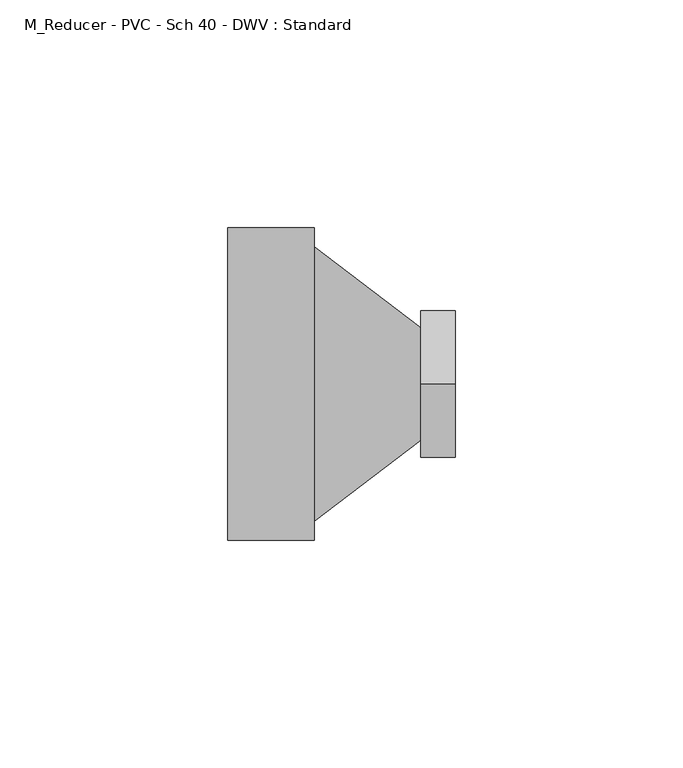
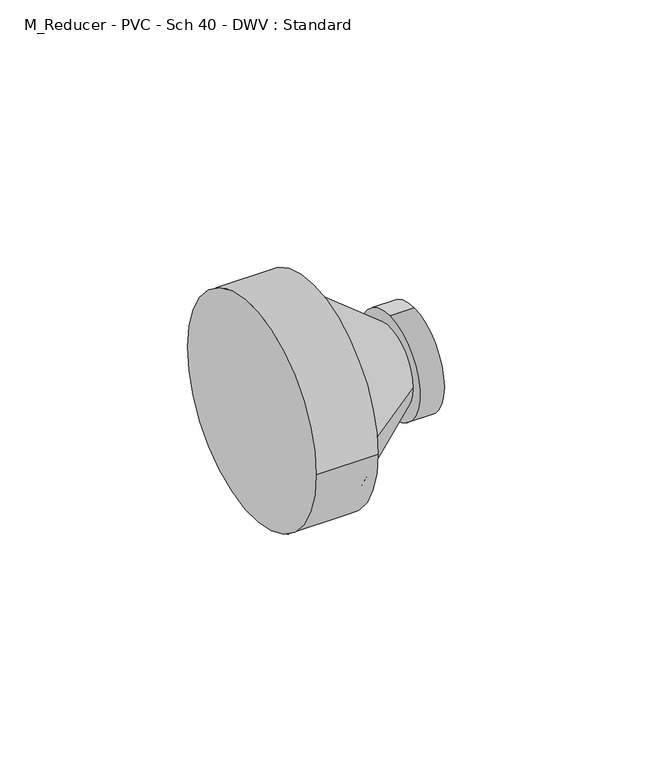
"""IFC4 building model written with IfcOpenShell, lengths in millimetres: pipe fitting geometry, M_Reducer - PVC - Sch 40 - DWV : Standard."""

from ifc_helpers import new_model, si_unit, frame, origin, place, context, project, spatial, polyline, circle_curve, source, transform, mapped, element, save
from ifc_brep_helpers import plane_surface, cylinder_surface, revolved_surface, advanced_brep


def m_reducer_pvc_sch_40_dwv_standard_e16815b3(model_context):
    return source(origin(), model_context, "Body", "AdvancedBrep", [
        advanced_brep(
        [(0.0, -34.3154, 0.0), (0.0, 34.3154, 0.0), (19.05, -34.3154, 0.0), (19.05, 34.3154, 0.0), (19.05, 30.1625, 0.0), (19.05, -30.1625, 0.0), (42.4460938, 12.3640625, 0.0), (42.4460938, -12.3640625, 0.0), (42.4460938, 0.0, 16.0871094), (42.4460938, 0.0, -16.0871094), (49.9460938, 0.0, 16.0871094), (49.9460938, 0.0, -16.0871094)],
        [
            (0, 1, circle_curve(frame((0.0, 0.0, 0.0), z_axis=(-1.0, 0.0, 0.0), x_axis=(0.0, 1.0, 0.0)), 34.3154)),
            (1, 0, circle_curve(frame((0.0, 0.0, 0.0), z_axis=(-1.0, 0.0, 0.0), x_axis=(0.0, 1.0, 0.0)), 34.3154)),
            (2, 3, circle_curve(frame((19.05, 0.0, 0.0), z_axis=(1.0, 0.0, 0.0), x_axis=(0.0, 1.0, 0.0)), 34.3154)),
            (3, 2, circle_curve(frame((19.05, 0.0, 0.0), z_axis=(1.0, 0.0, 0.0), x_axis=(0.0, 1.0, 0.0)), 34.3154)),
            (4, 5, circle_curve(frame((19.05, 0.0, 0.0), z_axis=(-1.0, 0.0, 0.0), x_axis=(0.0, -1.0, 0.0)), 30.1625)),
            (5, 4, circle_curve(frame((19.05, 0.0, 0.0), z_axis=(-1.0, 0.0, 0.0), x_axis=(0.0, 1.0, 0.0)), 30.1625)),
            (0, 2),
            (3, 1),
            (4, 6),
            (6, 7, circle_curve(frame((42.4460938, 0.0, 0.0), z_axis=(-1.0, 0.0, 0.0), x_axis=(0.0, -1.0, 0.0)), 12.3640625)),
            (7, 5),
            (7, 6, circle_curve(frame((42.4460938, 0.0, 0.0), z_axis=(-1.0, 0.0, 0.0), x_axis=(0.0, 1.0, 0.0)), 12.3640625)),
            (8, 9, circle_curve(frame((42.4460938, 0.0, 0.0), z_axis=(-1.0, 0.0, 0.0), x_axis=(0.0, 0.0, -1.0)), 16.0871094)),
            (9, 8, circle_curve(frame((42.4460938, 0.0, 0.0), z_axis=(-1.0, 0.0, 0.0), x_axis=(0.0, 0.0, -1.0)), 16.0871094)),
            (10, 11, circle_curve(frame((49.9460938, 0.0, 0.0), z_axis=(1.0, 0.0, 0.0), x_axis=(0.0, 0.0, -1.0)), 16.0871094)),
            (11, 10, circle_curve(frame((49.9460938, 0.0, 0.0), z_axis=(1.0, 0.0, 0.0), x_axis=(0.0, 0.0, -1.0)), 16.0871094)),
            (8, 10),
            (11, 9),
        ],
        [
            plane_surface(frame((0.0, 0.0, 0.0), z_axis=(-1.0, 0.0, 0.0), x_axis=(0.0, 0.0, 1.0))),
            plane_surface(frame((19.05, 0.0, 0.0), z_axis=(1.0, 0.0, 0.0), x_axis=(0.0, 0.0, 1.0))),
            cylinder_surface(frame((0.0, 0.0, 0.0), z_axis=(-1.0, 0.0, 0.0), x_axis=(0.0, 1.0, 0.0)), 34.3154),
            revolved_surface(polyline([(42.4460938, 12.364062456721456, 0.0), (19.050000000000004, 30.1625, 0.0)]), (58.698687, 0.0, 0.0), (-1.0, 0.0, 0.0)),
            plane_surface(frame((42.4460938, 0.0, 0.0), z_axis=(-1.0, 0.0, 0.0), x_axis=(0.0, 1.0, 0.0))),
            plane_surface(frame((49.9460938, 0.0, 0.0), z_axis=(1.0, 0.0, 0.0), x_axis=(0.0, 1.0, 0.0))),
            cylinder_surface(frame((42.4460938, 0.0, 0.0), z_axis=(-1.0, 0.0, 0.0), x_axis=(0.0, 0.0, -1.0)), 16.0871094),
        ],
        [
            (0, [[1, 2]]),
            (1, [[3, 4], [5, 6]]),
            (2, [[-1, 7, -4, 8]]),
            (2, [[-2, -8, -3, -7]]),
            (3, [[9, 10, 11, -5]]),
            (3, [[-9, -6, -11, 12]]),
            (4, [[13, 14], [-10, -12]]),
            (5, [[15, 16]]),
            (6, [[-13, 17, -16, 18]]),
            (6, [[-14, -18, -15, -17]]),
        ],
    ),
    ])


if __name__ == "__main__":
    model = new_model("IFC4")
    model_context = context("Model", 3, world=origin())
    ifc_project = project(units=[si_unit("LENGTHUNIT", "METRE", prefix="MILLI")], contexts=[model_context])
    site = spatial("IfcSite", under=ifc_project)
    building = spatial("IfcBuilding", under=site)
    placement = place(None, origin())
    m_reducer_pvc_sch_40_dwv_standard_shape = m_reducer_pvc_sch_40_dwv_standard_e16815b3(model_context)
    element("IfcPipeFitting", 1, ObjectType="M_Reducer - PVC - Sch 40 - DWV : Standard", at=placement, inside=building, context=model_context, shape_type="MappedRepresentation", body=[
        mapped(m_reducer_pvc_sch_40_dwv_standard_shape, transform((0.0, 0.0, 0.0), x_axis=(1.0, 0.0, 0.0), y_axis=(0.0, 1.0, 0.0), z_axis=(0.0, 0.0, 1.0))),
    ])
    save(model, "model.ifc")
